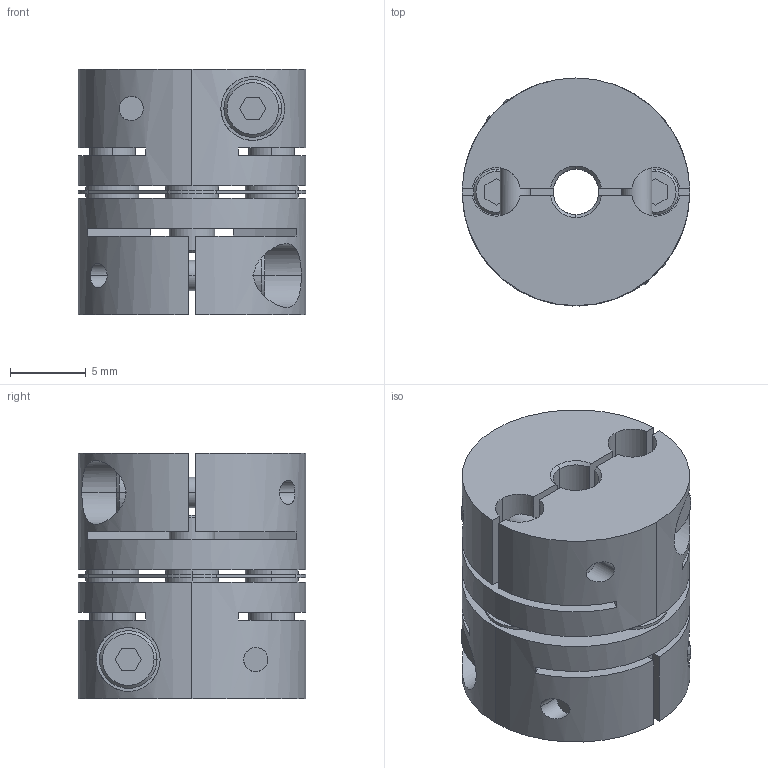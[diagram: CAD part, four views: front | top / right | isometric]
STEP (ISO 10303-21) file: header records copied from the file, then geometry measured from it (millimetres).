
FILE_DESCRIPTION((''),'2;1');
FILE_NAME('LAS-15C-3×6.stp','2016-04-21T12:30:48',(''),(''),'AutoCAD STEP 2000i','AutoCAD 2000i',', , ');
FILE_SCHEMA(('CONFIG_CONTROL_DESIGN'));
Length unit declared in the file: millimetre
Products named in the file (6): LAS-15C-3×6; 忣兜1; LA-1502-D06; LA-1502-D03-1; LA-1502-D03; LAS15-ITA
Assembly tree (5 placements, depth 2):
  LAS-15C-3×6
    忣兜1
    LA-1502-D06
    LA-1502-D03-1
    LA-1502-D03
    LAS15-ITA
Bounding box: 15 x 15 x 16.2 mm (x, y, z)
Volume: 2144.1 mm3; surface area: 2681.8 mm2
Topology: 1 solids, 1 shells, 236 faces, 624 edges, 408 vertices
Faces by surface type: plane 112, cylinder 96, cone 28
Entity records: 8169 total; most frequent: CARTESIAN_POINT 1962, DIRECTION 1304, ORIENTED_EDGE 1248, EDGE_CURVE 624, AXIS2_PLACEMENT_3D 478, VERTEX_POINT 408, VECTOR 348, LINE 348
